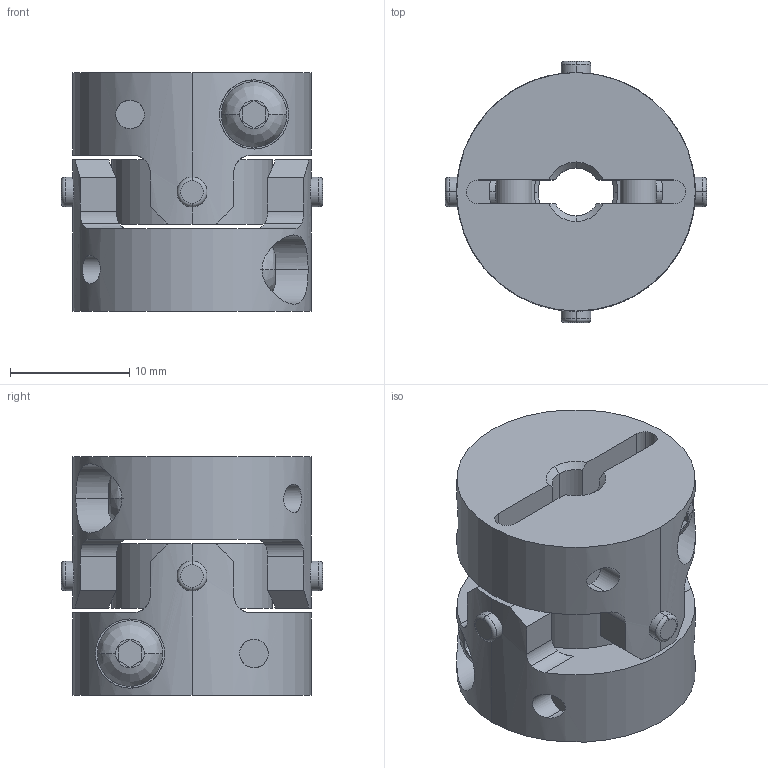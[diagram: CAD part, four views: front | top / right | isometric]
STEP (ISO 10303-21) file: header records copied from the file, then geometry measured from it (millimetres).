
FILE_DESCRIPTION((''),'2;1');
FILE_NAME('UA-20C-4×6.35.stp','2013-11-12T14:08:55',(''),(''),'AutoCAD STEP 2000i','AutoCAD 2000i',', , ');
FILE_SCHEMA(('CONFIG_CONTROL_DESIGN'));
Length unit declared in the file: millimetre
Products named in the file (6): UA-20C-4×4; 忣兜1; UA-2002-D04-1; BTN-M3; UA-2002-D04; UA20-SEN
Assembly tree (6 placements, depth 3):
  UA-20C-4×4
    忣兜1
    UA-2002-D04-1
      BTN-M3
    UA-2002-D04
      BTN-M3
    UA20-SEN
Bounding box: 21.89 x 21.89 x 20 mm (x, y, z)
Volume: 4507 mm3; surface area: 3866.6 mm2
Topology: 1 solids, 1 shells, 206 faces, 554 edges, 364 vertices
Faces by surface type: cylinder 96, plane 78, cone 16, bspline 8, torus 8
Entity records: 8011 total; most frequent: CARTESIAN_POINT 2695, ORIENTED_EDGE 1108, DIRECTION 1064, EDGE_CURVE 554, AXIS2_PLACEMENT_3D 409, VERTEX_POINT 364, VECTOR 246, LINE 246
